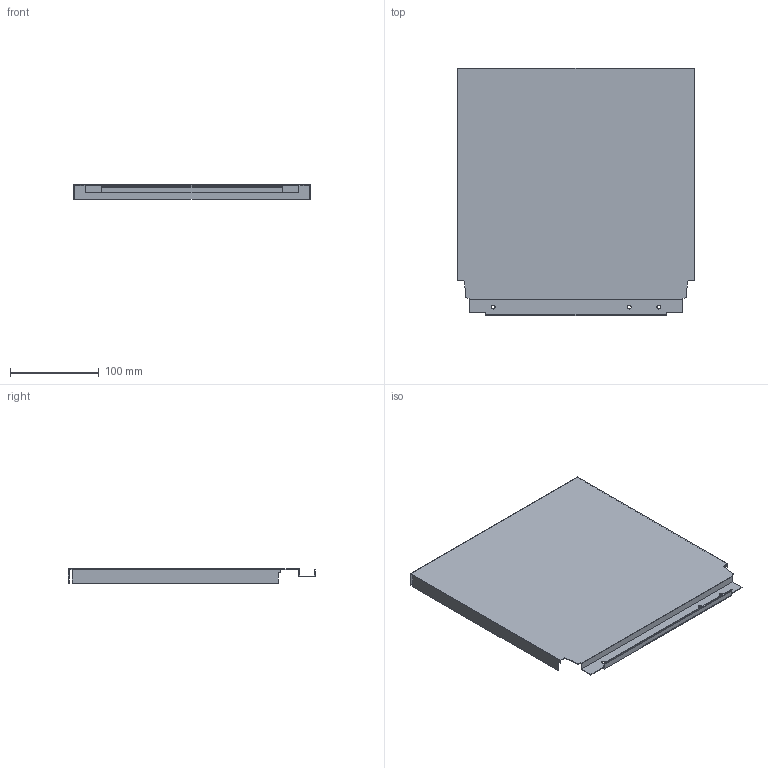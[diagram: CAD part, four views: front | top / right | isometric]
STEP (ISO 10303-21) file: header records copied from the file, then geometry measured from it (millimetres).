
FILE_DESCRIPTION (( 'STEP AP214' ), '1' );
FILE_NAME ('_DWD_XP Stahlrückwand_H278_KAB350_S16.step', '2010-07-08T13:03:43', ( 'grass' ), ( '' ), 'SwSTEP 2.0', 'SolidWorks 2010', '' );
FILE_SCHEMA (( 'AUTOMOTIVE_DESIGN' ));
Length unit declared in the file: millimetre
Products named in the file (1): _DWD_XP Stahlrückwand_H278_KAB350_S16
Bounding box: 267 x 278.57 x 16 mm (x, y, z)
Volume: 77303.7 mm3; surface area: 176768.5 mm2
Topology: 1 solids, 1 shells, 46 faces, 132 edges, 88 vertices
Faces by surface type: plane 40, cylinder 6
Entity records: 1534 total; most frequent: CARTESIAN_POINT 267, ORIENTED_EDGE 264, DIRECTION 238, EDGE_CURVE 132, VECTOR 120, LINE 120, VERTEX_POINT 88, AXIS2_PLACEMENT_3D 59
